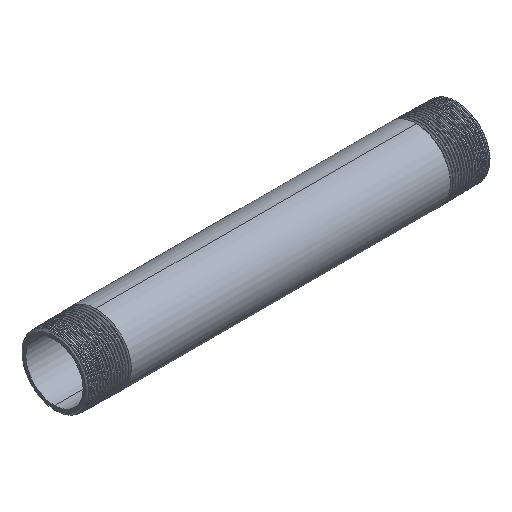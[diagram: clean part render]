
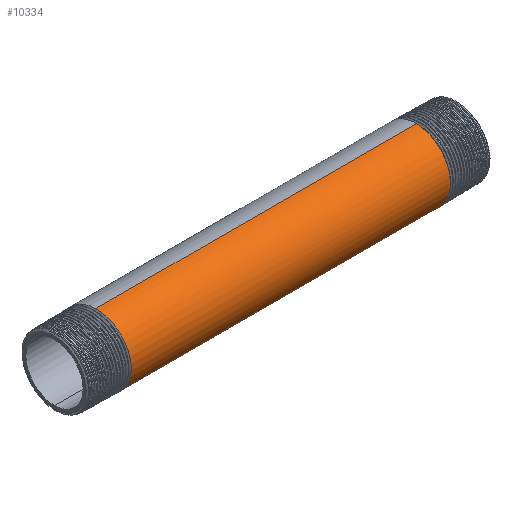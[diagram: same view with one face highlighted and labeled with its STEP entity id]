
A CAD part, isometric view. The second image highlights one B-rep face of the part: STEP entity #10334.
In plain terms, the highlighted cylindrical face has radius 8.6 mm (diameter 17.2 mm), a partial arc.
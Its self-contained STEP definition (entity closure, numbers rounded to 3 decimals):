
#23 = CARTESIAN_POINT ( 'NONE',  ( -39.679, -4.965, 8.6 ) ) ;
#33 = CARTESIAN_POINT ( 'NONE',  ( -149.494, 0., 0. ) ) ;
#466 = CARTESIAN_POINT ( 'NONE',  ( 39.473, -5.934, -6.251 ) ) ;
#524 = CARTESIAN_POINT ( 'NONE',  ( 39.502, -7.351, -4.465 ) ) ;
#635 = CARTESIAN_POINT ( 'NONE',  ( 39.446, -4.297, -7.452 ) ) ;
#662 = CARTESIAN_POINT ( 'NONE',  ( -39.446, -4.965, -8.6 ) ) ;
#739 = CARTESIAN_POINT ( 'NONE',  ( 39.699, -2.772, 8.16 ) ) ;
#1206 = CARTESIAN_POINT ( 'NONE',  ( 39.738, 0., 8.6 ) ) ;
#1266 = CARTESIAN_POINT ( 'NONE',  ( 39.574, -8.559, 0.855 ) ) ;
#1381 = CARTESIAN_POINT ( 'NONE',  ( 39.431, -3.335, -7.934 ) ) ;
#1437 = CARTESIAN_POINT ( 'NONE',  ( 39.52, -8.026, -3.124 ) ) ;
#1543 = CARTESIAN_POINT ( 'NONE',  ( 39.622, -7.396, 4.388 ) ) ;
#1615 = VERTEX_POINT ( 'NONE', #1206 ) ;
#1638 = DIRECTION ( 'NONE',  ( -1., 0., 0. ) ) ;
#1654 = CARTESIAN_POINT ( 'NONE',  ( 39.619, -7.517, 4.178 ) ) ;
#1708 = CARTESIAN_POINT ( 'NONE',  ( 39.736, -0.141, 8.599 ) ) ;
#1775 = LINE ( 'NONE', #3670, #10491 ) ;
#1938 = VERTEX_POINT ( 'NONE', #2376 ) ;
#2185 = ORIENTED_EDGE ( 'NONE', *, *, #4754, .T. ) ;
#2192 = DIRECTION ( 'NONE',  ( -1., 0., 0. ) ) ;
#2295 = CARTESIAN_POINT ( 'NONE',  ( 39.505, -7.5, -4.208 ) ) ;
#2376 = CARTESIAN_POINT ( 'NONE',  ( 39.388, 0., -8.6 ) ) ;
#2488 = CARTESIAN_POINT ( 'NONE',  ( -39.388, 0., -8.6 ) ) ;
#2576 = CARTESIAN_POINT ( 'NONE',  ( 39.737, -0.07, 8.6 ) ) ;
#2609 = CARTESIAN_POINT ( 'NONE',  ( -39.621, -7.448, 4.3 ) ) ;
#2633 = CARTESIAN_POINT ( 'NONE',  ( 39.634, -6.84, 5.244 ) ) ;
#2661 = CARTESIAN_POINT ( 'NONE',  ( -39.738, 0., 8.6 ) ) ;
#2785 = ORIENTED_EDGE ( 'NONE', *, *, #5590, .F. ) ;
#3099 = CARTESIAN_POINT ( 'NONE',  ( 39.504, -7.428, -4.334 ) ) ;
#3156 = CARTESIAN_POINT ( 'NONE',  ( 39.494, -6.999, -5.016 ) ) ;
#3257 =( BOUNDED_CURVE ( )  B_SPLINE_CURVE ( 2, ( #2488, #662, #10357, #10242, #2609, #23, #2661, #10298, #4145 ),
 .UNSPECIFIED., .F., .T. ) 
 B_SPLINE_CURVE_WITH_KNOTS ( ( 3, 2, 2, 2, 3 ),
 ( 0., 0.008, 0.016, 0.023, 0.023 ),
 .UNSPECIFIED. ) 
 CURVE ( )  GEOMETRIC_REPRESENTATION_ITEM ( )  RATIONAL_B_SPLINE_CURVE ( ( 1., 0.866, 1., 0.866, 1., 0.866, 1., 1., 1. ) ) 
 REPRESENTATION_ITEM ( '' )  );
#3258 = CARTESIAN_POINT ( 'NONE',  ( 39.565, -8.6, 0.168 ) ) ;
#3294 = CYLINDRICAL_SURFACE ( 'NONE', #5652, 8.6 ) ;
#3310 = CARTESIAN_POINT ( 'NONE',  ( 39.613, -7.751, 3.734 ) ) ;
#3365 = CARTESIAN_POINT ( 'NONE',  ( 39.624, -7.315, 4.524 ) ) ;
#3423 = CARTESIAN_POINT ( 'NONE',  ( 39.585, -8.444, 1.66 ) ) ;
#3479 = CARTESIAN_POINT ( 'NONE',  ( 39.62, -7.478, 4.248 ) ) ;
#3670 = CARTESIAN_POINT ( 'NONE',  ( -149.494, 0., 8.6 ) ) ;
#4069 = CARTESIAN_POINT ( 'NONE',  ( 39.392, -0.377, -8.6 ) ) ;
#4119 = CARTESIAN_POINT ( 'NONE',  ( 39.451, -4.607, -7.264 ) ) ;
#4145 = CARTESIAN_POINT ( 'NONE',  ( -39.738, 0., 8.6 ) ) ;
#4221 = CARTESIAN_POINT ( 'NONE',  ( 39.734, -0.246, 8.597 ) ) ;
#4277 = CARTESIAN_POINT ( 'NONE',  ( 39.738, 0., 8.6 ) ) ;
#4324 = EDGE_CURVE ( 'NONE', #1938, #1615, #7566, .T. ) ;
#4754 = EDGE_CURVE ( 'NONE', #1615, #7254, #1775, .T. ) ;
#4806 = CARTESIAN_POINT ( 'NONE',  ( 39.397, -0.824, -8.576 ) ) ;
#4971 = CARTESIAN_POINT ( 'NONE',  ( 39.411, -1.843, -8.416 ) ) ;
#4988 = ORIENTED_EDGE ( 'NONE', *, *, #8594, .F. ) ;
#5023 = CARTESIAN_POINT ( 'NONE',  ( 39.676, -4.333, 7.514 ) ) ;
#5136 = CARTESIAN_POINT ( 'NONE',  ( 39.621, -7.439, 4.316 ) ) ;
#5175 = FACE_OUTER_BOUND ( 'NONE', #7808, .T. ) ;
#5244 = CARTESIAN_POINT ( 'NONE',  ( 39.622, -7.419, 4.349 ) ) ;
#5432 = DIRECTION ( 'NONE',  ( -1., 0., 0. ) ) ;
#5590 = EDGE_CURVE ( 'NONE', #8025, #7254, #3257, .T. ) ;
#5604 = CARTESIAN_POINT ( 'NONE',  ( 39.567, -8.595, 0.341 ) ) ;
#5652 = AXIS2_PLACEMENT_3D ( 'NONE', #33, #1638, #6875 ) ;
#5775 = CARTESIAN_POINT ( 'NONE',  ( 39.509, -7.642, -3.95 ) ) ;
#5935 = CARTESIAN_POINT ( 'NONE',  ( 39.626, -7.231, 4.658 ) ) ;
#5987 = CARTESIAN_POINT ( 'NONE',  ( 39.706, -2.231, 8.325 ) ) ;
#6288 = VECTOR ( 'NONE', #2192, 1000. ) ;
#6360 = LINE ( 'NONE', #10754, #6288 ) ;
#6509 = CARTESIAN_POINT ( 'NONE',  ( 39.418, -2.416, -8.28 ) ) ;
#6635 = ORIENTED_EDGE ( 'NONE', *, *, #4324, .T. ) ;
#6776 = CARTESIAN_POINT ( 'NONE',  ( 39.718, -1.402, 8.49 ) ) ;
#6834 = CARTESIAN_POINT ( 'NONE',  ( 39.662, -5.287, 6.876 ) ) ;
#6875 = DIRECTION ( 'NONE',  ( 0., 0., 1. ) ) ;
#6890 = CARTESIAN_POINT ( 'NONE',  ( 39.641, -6.481, 5.681 ) ) ;
#7001 = CARTESIAN_POINT ( 'NONE',  ( 39.728, -0.703, 8.572 ) ) ;
#7254 = VERTEX_POINT ( 'NONE', #8557 ) ;
#7300 = CARTESIAN_POINT ( 'NONE',  ( -39.388, 0., -8.6 ) ) ;
#7417 = CARTESIAN_POINT ( 'NONE',  ( 39.388, 0., -8.6 ) ) ;
#7473 = CARTESIAN_POINT ( 'NONE',  ( 39.506, -7.524, -4.166 ) ) ;
#7526 = CARTESIAN_POINT ( 'NONE',  ( 39.465, -5.466, -6.676 ) ) ;
#7566 = B_SPLINE_CURVE_WITH_KNOTS ( 'NONE', 3,
 ( #7417, #4069, #4806, #4971, #6509, #1381, #8426, #10008, #635, #4119, #7579, #7526, #466, #10858, #3156, #8201, #524, #3099, #11018, #2295, #7473, #5775, #9209, #1437, #10965, #10162, #10108, #3258, #5604, #9040, #1266, #7734, #3423, #11233, #11123, #3310, #10215, #1654, #3479, #5136, #5244, #11178, #1543, #3365, #5935, #2633, #6890, #6834, #5023, #739, #5987, #6776, #7681, #7001, #10324, #4221, #1708, #2576, #9532, #4277 ),
 .UNSPECIFIED., .F., .F.,
 ( 4, 2, 2, 2, 2, 2, 2, 2, 2, 2, 2, 2, 2, 2, 2, 2, 2, 2, 2, 1, 2, 2, 1, 2, 2, 2, 2, 2, 1, 1, 2, 4 ),
 ( 0., 0.001, 0.003, 0.004, 0.004, 0.004, 0.006, 0.007, 0.008, 0.008, 0.008, 0.009, 0.01, 0.012, 0.012, 0.012, 0.013, 0.015, 0.015, 0.015, 0.016, 0.016, 0.016, 0.016, 0.018, 0.02, 0.022, 0.023, 0.023, 0.023, 0.023, 0.023 ),
 .UNSPECIFIED. ) ;
#7579 = CARTESIAN_POINT ( 'NONE',  ( 39.453, -4.755, -7.168 ) ) ;
#7681 = CARTESIAN_POINT ( 'NONE',  ( 39.722, -1.123, 8.531 ) ) ;
#7734 = CARTESIAN_POINT ( 'NONE',  ( 39.581, -8.5, 1.348 ) ) ;
#7808 = EDGE_LOOP ( 'NONE', ( #4988, #6635, #2185, #2785 ) ) ;
#8025 = VERTEX_POINT ( 'NONE', #7300 ) ;
#8201 = CARTESIAN_POINT ( 'NONE',  ( 39.501, -7.295, -4.555 ) ) ;
#8426 = CARTESIAN_POINT ( 'NONE',  ( 39.436, -3.651, -7.795 ) ) ;
#8557 = CARTESIAN_POINT ( 'NONE',  ( -39.738, 0., 8.6 ) ) ;
#8594 = EDGE_CURVE ( 'NONE', #1938, #8025, #6360, .T. ) ;
#9040 = CARTESIAN_POINT ( 'NONE',  ( 39.572, -8.574, 0.686 ) ) ;
#9209 = CARTESIAN_POINT ( 'NONE',  ( 39.512, -7.739, -3.759 ) ) ;
#9532 = CARTESIAN_POINT ( 'NONE',  ( 39.737, -0.033, 8.6 ) ) ;
#10008 = CARTESIAN_POINT ( 'NONE',  ( 39.443, -4.133, -7.544 ) ) ;
#10108 = CARTESIAN_POINT ( 'NONE',  ( 39.552, -8.598, -0.766 ) ) ;
#10162 = CARTESIAN_POINT ( 'NONE',  ( 39.543, -8.5, -1.441 ) ) ;
#10215 = CARTESIAN_POINT ( 'NONE',  ( 39.616, -7.647, 3.941 ) ) ;
#10242 = CARTESIAN_POINT ( 'NONE',  ( -39.563, -9.93, 0. ) ) ;
#10298 = CARTESIAN_POINT ( 'NONE',  ( -39.738, 0., 8.6 ) ) ;
#10324 = CARTESIAN_POINT ( 'NONE',  ( 39.731, -0.493, 8.588 ) ) ;
#10334 = ADVANCED_FACE ( 'NONE', ( #5175 ), #3294, .T. ) ;
#10357 = CARTESIAN_POINT ( 'NONE',  ( -39.504, -7.448, -4.3 ) ) ;
#10491 = VECTOR ( 'NONE', #5432, 1000. ) ;
#10754 = CARTESIAN_POINT ( 'NONE',  ( -149.494, 0., -8.6 ) ) ;
#10858 = CARTESIAN_POINT ( 'NONE',  ( 39.488, -6.7, -5.421 ) ) ;
#10965 = CARTESIAN_POINT ( 'NONE',  ( 39.527, -8.214, -2.62 ) ) ;
#11018 = CARTESIAN_POINT ( 'NONE',  ( 39.504, -7.454, -4.29 ) ) ;
#11123 = CARTESIAN_POINT ( 'NONE',  ( 39.604, -8.051, 3.062 ) ) ;
#11178 = CARTESIAN_POINT ( 'NONE',  ( 39.622, -7.414, 4.358 ) ) ;
#11233 = CARTESIAN_POINT ( 'NONE',  ( 39.597, -8.237, 2.544 ) ) ;
